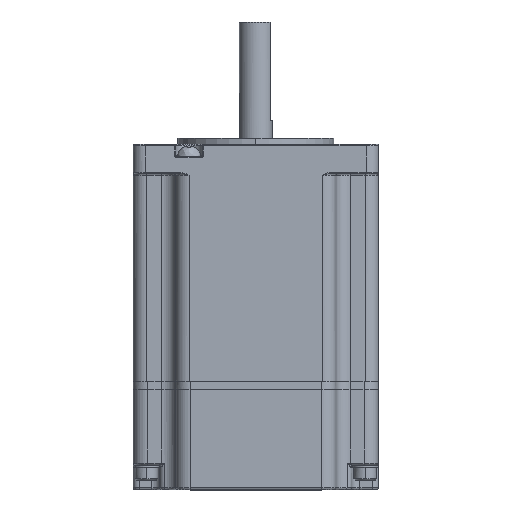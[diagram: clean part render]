
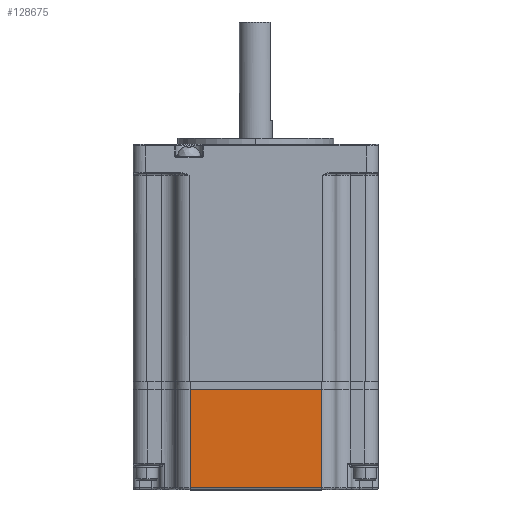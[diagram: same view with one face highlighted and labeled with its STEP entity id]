
A CAD part, top view. The second image highlights one B-rep face of the part: STEP entity #128675.
In plain terms, the highlighted planar face has unit normal (0, 0, 1).
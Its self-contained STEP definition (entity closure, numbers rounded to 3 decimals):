
#932 = CARTESIAN_POINT ( 'NONE',  ( 10.566, -31.92, 80.405 ) ) ;
#5700 = AXIS2_PLACEMENT_3D ( 'NONE', #111694, #49522, #148989 ) ;
#12346 = DIRECTION ( 'NONE',  ( 0., -1., 0. ) ) ;
#18974 = VECTOR ( 'NONE', #104493, 1000. ) ;
#20544 = CARTESIAN_POINT ( 'NONE',  ( 42.766, -31.92, 80.405 ) ) ;
#22689 = VECTOR ( 'NONE', #92686, 1000. ) ;
#28944 = VERTEX_POINT ( 'NONE', #35891 ) ;
#35891 = CARTESIAN_POINT ( 'NONE',  ( 42.766, -7.92, 80.405 ) ) ;
#40900 = ORIENTED_EDGE ( 'NONE', *, *, #76541, .T. ) ;
#43848 = ORIENTED_EDGE ( 'NONE', *, *, #111019, .T. ) ;
#43995 = CARTESIAN_POINT ( 'NONE',  ( 10.566, -31.92, 80.405 ) ) ;
#45444 = VERTEX_POINT ( 'NONE', #48745 ) ;
#48745 = CARTESIAN_POINT ( 'NONE',  ( 42.766, -31.92, 80.405 ) ) ;
#49522 = DIRECTION ( 'NONE',  ( 0., 0., 1. ) ) ;
#59620 = VECTOR ( 'NONE', #63197, 1000. ) ;
#63120 = PLANE ( 'NONE',  #5700 ) ;
#63197 = DIRECTION ( 'NONE',  ( -1., 0., 0. ) ) ;
#68821 = LINE ( 'NONE', #43995, #22689 ) ;
#76541 = EDGE_CURVE ( 'NONE', #111892, #139472, #97048, .T. ) ;
#85492 = FACE_OUTER_BOUND ( 'NONE', #151193, .T. ) ;
#92686 = DIRECTION ( 'NONE',  ( 1., 0., 0. ) ) ;
#97048 = LINE ( 'NONE', #147828, #121812 ) ;
#100567 = CARTESIAN_POINT ( 'NONE',  ( 10.566, -7.92, 80.405 ) ) ;
#104493 = DIRECTION ( 'NONE',  ( 0., 1., 0. ) ) ;
#111019 = EDGE_CURVE ( 'NONE', #139472, #45444, #68821, .T. ) ;
#111694 = CARTESIAN_POINT ( 'NONE',  ( 26.666, -19.92, 80.405 ) ) ;
#111892 = VERTEX_POINT ( 'NONE', #100567 ) ;
#121278 = ORIENTED_EDGE ( 'NONE', *, *, #148205, .T. ) ;
#121812 = VECTOR ( 'NONE', #12346, 1000. ) ;
#125263 = LINE ( 'NONE', #137906, #59620 ) ;
#128675 = ADVANCED_FACE ( 'NONE', ( #85492 ), #63120, .T. ) ;
#130606 = EDGE_CURVE ( 'NONE', #45444, #28944, #153762, .T. ) ;
#132741 = ORIENTED_EDGE ( 'NONE', *, *, #130606, .T. ) ;
#137906 = CARTESIAN_POINT ( 'NONE',  ( 42.766, -7.92, 80.405 ) ) ;
#139472 = VERTEX_POINT ( 'NONE', #932 ) ;
#147828 = CARTESIAN_POINT ( 'NONE',  ( 10.566, -7.92, 80.405 ) ) ;
#148205 = EDGE_CURVE ( 'NONE', #28944, #111892, #125263, .T. ) ;
#148989 = DIRECTION ( 'NONE',  ( 1., 0., 0. ) ) ;
#151193 = EDGE_LOOP ( 'NONE', ( #132741, #121278, #40900, #43848 ) ) ;
#153762 = LINE ( 'NONE', #20544, #18974 ) ;
